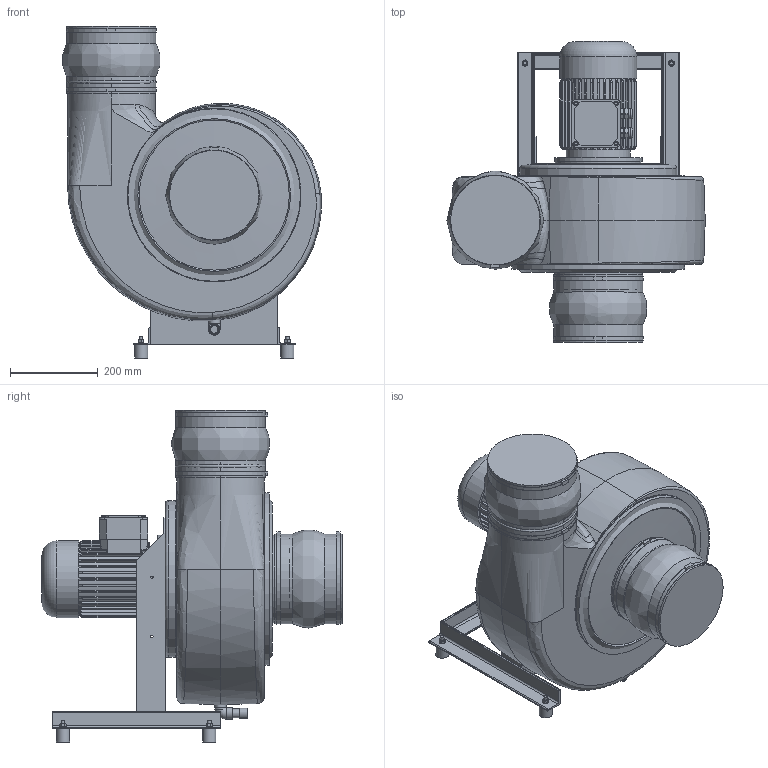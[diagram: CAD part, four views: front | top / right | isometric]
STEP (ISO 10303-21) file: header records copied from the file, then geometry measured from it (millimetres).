
FILE_DESCRIPTION( ( 'Unknown' ), '1' );
FILE_NAME( 'K:/HOME/HLT_CAD/Z/HF/3D/Zusammenstellung/HFR/HFR 15_17/HFR...-15D/DS_1/HFR_200-15D/GL360/HFR_200-15D_DS1_GL_360_090.stp', 'Unknown', ( 'Unknown' ), ( 'Unknown' ), 'PSStep 17.0.49', 'Unknown', ' ' );
FILE_SCHEMA( ( 'AUTOMOTIVE_DESIGN { 1 0 10303 214 1 1 1 1 }' ) );
Length unit declared in the file: millimetre
Products named in the file (26): 6203_Kugelmanschette; 6203_Manschettenband_HFR200; 6203_Schelle_HFR200; 5301_Gestell_HFR200_15_17_D_DS1; Angle 40x40x4-oa1; Angle 40x40x4-oa2; Angle 40x40x4-oa3; 5301_Gehäusebefestigungsplatte-oa4; 5159_Kondensatablauf_125-315; Winkel_90°_G1_2; Stopfen_G1_2-oa0; Rohr_20; Verschlusskappe_20; 5217_Laufradbefestigung; 5217_Drehteil; 5217_Flachdichtung_Ø32; 5217_Schraubkappe; 5217_Flachdichtung_Ø63; Assem1; Laufrad 200_GL; 200 mit laufrad HF R 200; B5_90L_2HIHI; 6611_Motorring_Bg80; Schwidä_30x30; 6kant_M8; HFR 200_GL_abgeschn
Assembly tree (33 placements, depth 3):
  Assem1
    Laufrad 200_GL
    200 mit laufrad HF R 200
    B5_90L_2HIHI
    6611_Motorring_Bg80
    Schwidä_30x30  x4
    6kant_M8  x4
    HFR 200_GL_abgeschn
    5159_Kondensatablauf_125-315
      Winkel_90°_G1_2
      Stopfen_G1_2-oa0
      Rohr_20
      Verschlusskappe_20
    6203_Kugelmanschette  x2
      6203_Manschettenband_HFR200
      6203_Schelle_HFR200
    5217_Laufradbefestigung
      5217_Drehteil
      5217_Flachdichtung_Ø32
      5217_Schraubkappe
      5217_Flachdichtung_Ø63
    5301_Gestell_HFR200_15_17_D_DS1
      Angle 40x40x4-oa1
      Angle 40x40x4-oa2
      Angle 40x40x4-oa3
      5301_Gehäusebefestigungsplatte-oa4
Bounding box: 590.09 x 687 x 758 mm (x, y, z)
Volume: 75841187.8 mm3; surface area: 2968603.3 mm2
Topology: 31 solids, 40 shells, 1335 faces, 3188 edges, 2035 vertices
Faces by surface type: plane 762, cylinder 319, cone 132, bspline 94, torus 24, revolution 4
Full cylindrical faces by diameter (mm): 3.5 x3, 5.5 x4, 6.647 x9, 8 x14, 9 x2, 10 x4, 10.5 x1, 11 x12, 12 x13, 13 x25, 16 x2, 17 x1, 20 x4, 20.955 x1, 22.212 x1, 23 x1, 24 x5, 25 x1, 26.5 x2, 28.8 x1, 30 x4, 30.291 x1, 32 x1, 33.25 x1, 37 x1, 40 x1, 44 x1, 46 x1, 50 x1, 52 x1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
Entity records: 75499 total; most frequent: CARTESIAN_POINT 37258, ORIENTED_EDGE 5496, DIRECTION 5455, EDGE_CURVE 2748, AXIS2_PLACEMENT_3D 2034, VERTEX_POINT 1846, EDGE_LOOP 1618, FACE_OUTER_BOUND 1398
